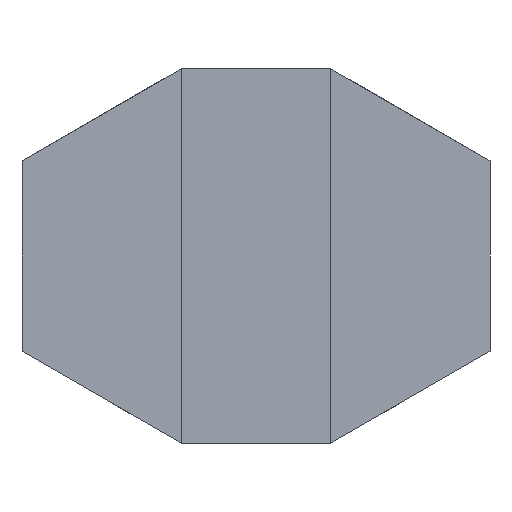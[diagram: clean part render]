
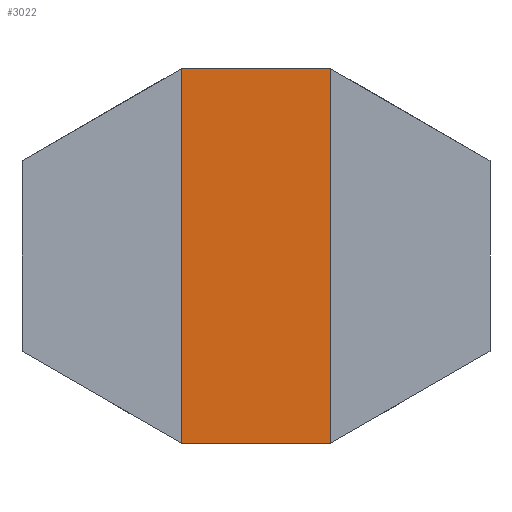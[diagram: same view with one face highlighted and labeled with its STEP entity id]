
A CAD part, front view. The second image highlights one B-rep face of the part: STEP entity #3022.
In plain terms, the highlighted planar face has unit normal (0, -1, 0).
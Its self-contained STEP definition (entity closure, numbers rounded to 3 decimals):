
#25 = VERTEX_POINT ( 'NONE', #548 ) ;
#41 = VERTEX_POINT ( 'NONE', #1465 ) ;
#162 = LINE ( 'NONE', #1357, #394 ) ;
#224 = VERTEX_POINT ( 'NONE', #1813 ) ;
#277 = EDGE_CURVE ( 'NONE', #25, #2228, #162, .T. ) ;
#394 = VECTOR ( 'NONE', #1788, 1000. ) ;
#528 = EDGE_LOOP ( 'NONE', ( #632, #1862, #1269, #561 ) ) ;
#539 = CARTESIAN_POINT ( 'NONE',  ( 0.4, 0., 1. ) ) ;
#548 = CARTESIAN_POINT ( 'NONE',  ( -0.4, 0., 1. ) ) ;
#561 = ORIENTED_EDGE ( 'NONE', *, *, #1447, .F. ) ;
#632 = ORIENTED_EDGE ( 'NONE', *, *, #277, .F. ) ;
#791 = DIRECTION ( 'NONE',  ( 0., 0., 1. ) ) ;
#860 = CARTESIAN_POINT ( 'NONE',  ( -0.4, 0., -1. ) ) ;
#967 = EDGE_CURVE ( 'NONE', #224, #41, #1349, .T. ) ;
#1015 = AXIS2_PLACEMENT_3D ( 'NONE', #1975, #2687, #1472 ) ;
#1060 = LINE ( 'NONE', #2814, #1139 ) ;
#1139 = VECTOR ( 'NONE', #2833, 1000. ) ;
#1269 = ORIENTED_EDGE ( 'NONE', *, *, #967, .F. ) ;
#1349 = LINE ( 'NONE', #860, #1567 ) ;
#1357 = CARTESIAN_POINT ( 'NONE',  ( -0.4, 0., 1. ) ) ;
#1447 = EDGE_CURVE ( 'NONE', #2228, #224, #1060, .T. ) ;
#1465 = CARTESIAN_POINT ( 'NONE',  ( -0.4, 0., -1. ) ) ;
#1469 = CARTESIAN_POINT ( 'NONE',  ( -0.4, 0., 1. ) ) ;
#1472 = DIRECTION ( 'NONE',  ( 0., 0., 1. ) ) ;
#1552 = DIRECTION ( 'NONE',  ( -1., 0., 0. ) ) ;
#1567 = VECTOR ( 'NONE', #1552, 1000. ) ;
#1788 = DIRECTION ( 'NONE',  ( 1., 0., 0. ) ) ;
#1813 = CARTESIAN_POINT ( 'NONE',  ( 0.4, 0., -1. ) ) ;
#1825 = EDGE_CURVE ( 'NONE', #41, #25, #2121, .T. ) ;
#1838 = VECTOR ( 'NONE', #791, 1000. ) ;
#1862 = ORIENTED_EDGE ( 'NONE', *, *, #1825, .F. ) ;
#1882 = FACE_OUTER_BOUND ( 'NONE', #528, .T. ) ;
#1975 = CARTESIAN_POINT ( 'NONE',  ( 0., 0., 0. ) ) ;
#2121 = LINE ( 'NONE', #1469, #1838 ) ;
#2191 = PLANE ( 'NONE',  #1015 ) ;
#2228 = VERTEX_POINT ( 'NONE', #539 ) ;
#2687 = DIRECTION ( 'NONE',  ( 0., 1., 0. ) ) ;
#2814 = CARTESIAN_POINT ( 'NONE',  ( 0.4, 0., -1. ) ) ;
#2833 = DIRECTION ( 'NONE',  ( 0., 0., -1. ) ) ;
#3022 = ADVANCED_FACE ( 'NONE', ( #1882 ), #2191, .F. ) ;
